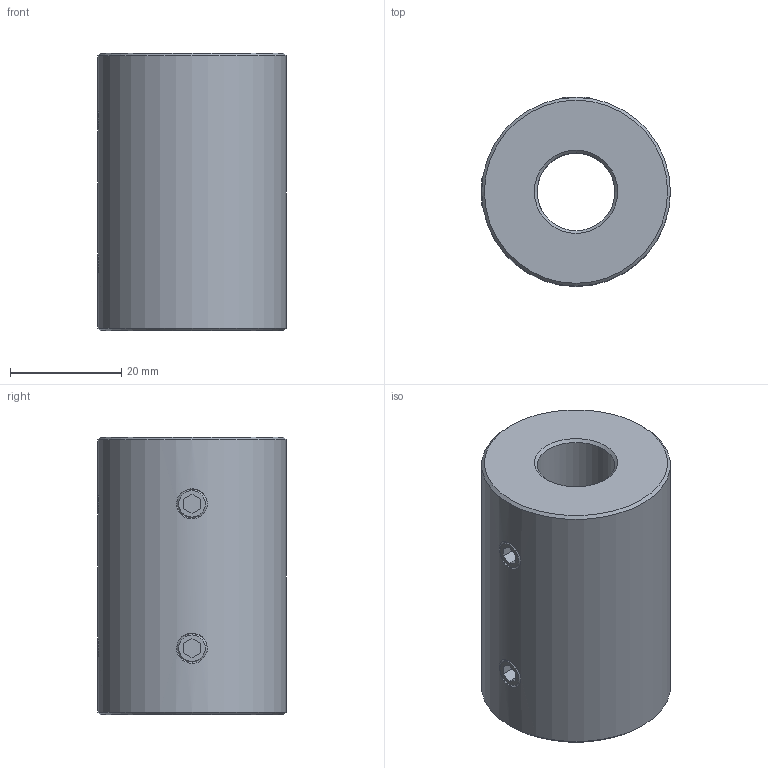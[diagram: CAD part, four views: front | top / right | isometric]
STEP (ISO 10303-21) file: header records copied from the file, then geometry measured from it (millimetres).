
FILE_DESCRIPTION (( 'STEP AP214' ), '1' );
FILE_NAME ('KBST1-VA-14.STEP', '2025-07-29T06:54:32', ( '' ), ( '' ), 'SwSTEP 2.0', 'SolidWorks 2024', '' );
FILE_SCHEMA (( 'AUTOMOTIVE_DESIGN' ));
Length unit declared in the file: millimetre
Products named in the file (1): KBST1-VA-14
Bounding box: 34 x 34 x 50 mm (x, y, z)
Volume: 37303.6 mm3; surface area: 10302.1 mm2
Topology: 5 solids, 5 shells, 80 faces, 178 edges, 104 vertices
Faces by surface type: plane 34, cone 28, cylinder 14, bspline 4
Full cylindrical faces by diameter (mm): 5 x4, 14 x1, 34 x1
Entity records: 7659 total; most frequent: CARTESIAN_POINT 5037, DIRECTION 338, ORIENTED_EDGE 312, EDGE_CURVE 156, AXIS2_PLACEMENT_3D 117, EDGE_LOOP 108, LINE 104, VECTOR 104
